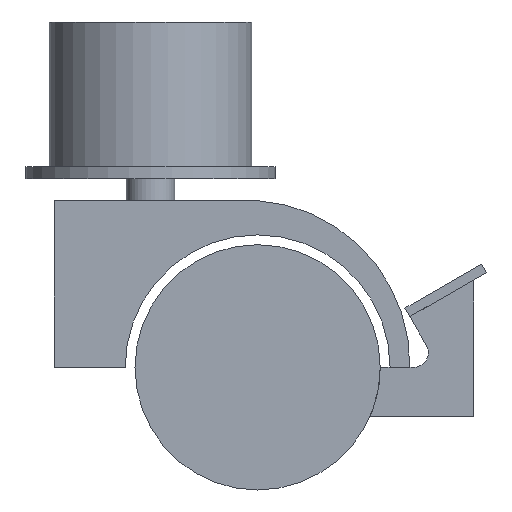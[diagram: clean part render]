
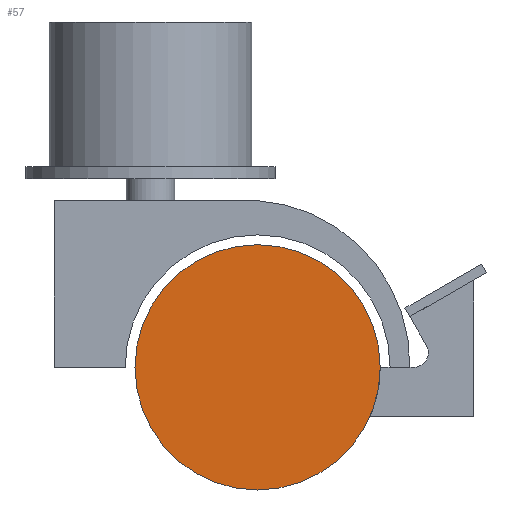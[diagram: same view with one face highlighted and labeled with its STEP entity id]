
A CAD part, left-side view. The second image highlights one B-rep face of the part: STEP entity #57.
In plain terms, the highlighted planar face has unit normal (-1, 0, 0).
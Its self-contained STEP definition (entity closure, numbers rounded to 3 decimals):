
#57 = ADVANCED_FACE( '', ( #138 ), #139, .F. );
#138 = FACE_OUTER_BOUND( '', #246, .T. );
#139 = PLANE( '', #247 );
#246 = EDGE_LOOP( '', ( #353 ) );
#247 = AXIS2_PLACEMENT_3D( '', #354, #355, #356 );
#353 = ORIENTED_EDGE( '', *, *, #608, .F. );
#354 = CARTESIAN_POINT( '', ( -31., -22.2, -41.58 ) );
#355 = DIRECTION( '', ( 1., 0., 0. ) );
#356 = DIRECTION( '', ( 0., 0., -1. ) );
#608 = EDGE_CURVE( '', #711, #711, #712, .T. );
#711 = VERTEX_POINT( '', #859 );
#712 = CIRCLE( '', #860, 25.42 );
#859 = CARTESIAN_POINT( '', ( -31., -22.2, -67. ) );
#860 = AXIS2_PLACEMENT_3D( '', #1045, #1046, #1047 );
#1045 = CARTESIAN_POINT( '', ( -31., -22.2, -41.58 ) );
#1046 = DIRECTION( '', ( 1., 0., 0. ) );
#1047 = DIRECTION( '', ( 0., 0., -1. ) );
